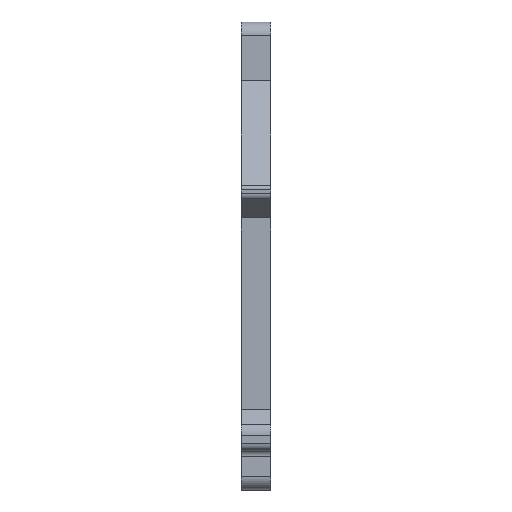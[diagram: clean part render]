
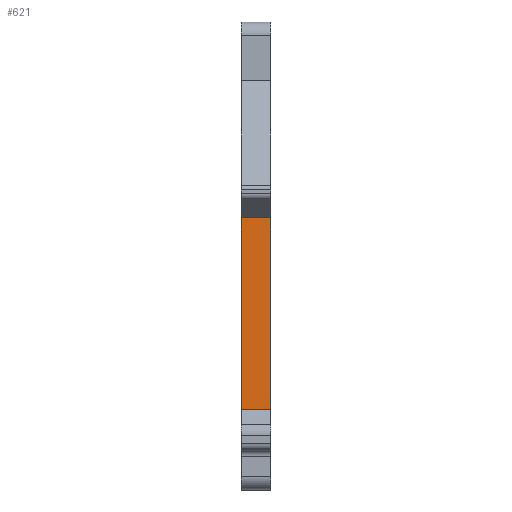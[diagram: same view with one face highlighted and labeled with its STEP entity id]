
A CAD part, front view. The second image highlights one B-rep face of the part: STEP entity #621.
In plain terms, the highlighted planar face has unit normal (0, -1, 0).
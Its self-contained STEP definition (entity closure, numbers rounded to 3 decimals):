
#35=CARTESIAN_POINT('',(0.,-28.55,20.373));
#36=VERTEX_POINT('',#35);
#37=CARTESIAN_POINT('',(0.,-28.55,6.031));
#38=VERTEX_POINT('',#37);
#39=CARTESIAN_POINT('',(0.,-28.55,20.373));
#40=DIRECTION('',(0.,0.,-1.));
#41=VECTOR('',#40,14.342);
#42=LINE('',#39,#41);
#43=EDGE_CURVE('',#36,#38,#42,.T.);
#320=CARTESIAN_POINT('',(-2.2,-28.55,20.373));
#321=VERTEX_POINT('',#320);
#583=CARTESIAN_POINT('',(-2.2,-28.55,6.031));
#584=VERTEX_POINT('',#583);
#591=CARTESIAN_POINT('',(-2.2,-28.55,6.031));
#592=DIRECTION('',(0.,0.,1.));
#593=VECTOR('',#592,14.342);
#594=LINE('',#591,#593);
#595=EDGE_CURVE('',#584,#321,#594,.T.);
#600=CARTESIAN_POINT('',(-1.1,-28.55,13.202));
#601=DIRECTION('',(0.,0.,-1.));
#602=DIRECTION('',(0.,-1.,0.));
#603=AXIS2_PLACEMENT_3D('',#600,#602,#601);
#604=PLANE('',#603);
#605=CARTESIAN_POINT('',(0.,-28.55,20.373));
#606=DIRECTION('',(-1.,0.,0.));
#607=VECTOR('',#606,2.2);
#608=LINE('',#605,#607);
#609=EDGE_CURVE('',#36,#321,#608,.T.);
#610=ORIENTED_EDGE('E67',*,*,#609,.T.);
#611=ORIENTED_EDGE('E67',*,*,#595,.F.);
#612=CARTESIAN_POINT('',(-2.2,-28.55,6.031));
#613=DIRECTION('',(1.,0.,0.));
#614=VECTOR('',#613,2.2);
#615=LINE('',#612,#614);
#616=EDGE_CURVE('',#584,#38,#615,.T.);
#617=ORIENTED_EDGE('E68',*,*,#616,.T.);
#618=ORIENTED_EDGE('E68',*,*,#43,.F.);
#619=EDGE_LOOP('',(#610,#611,#617,#618));
#620=FACE_OUTER_BOUND('',#619,.T.);
#621=ADVANCED_FACE('F3',(#620),#604,.T.);
